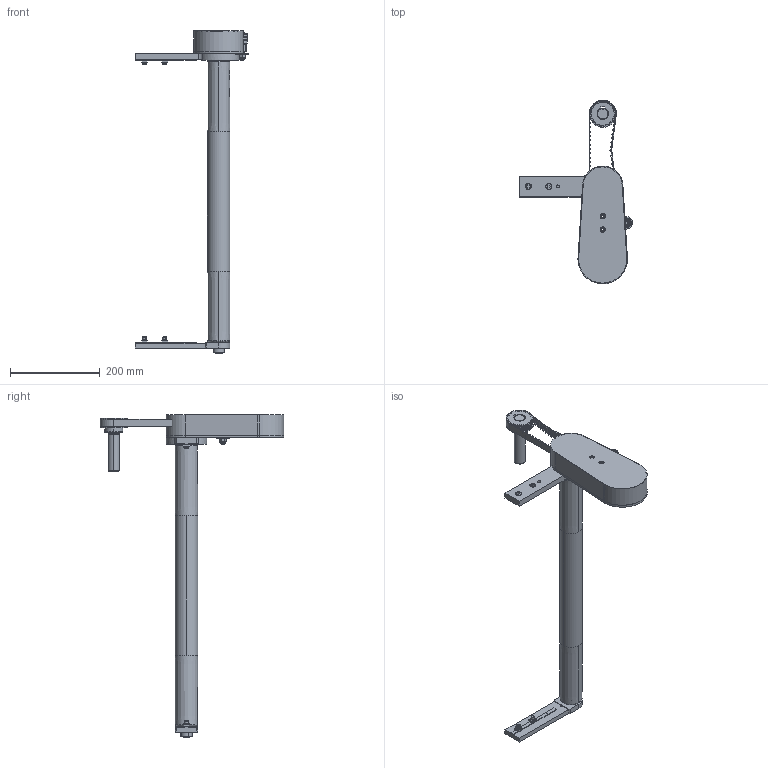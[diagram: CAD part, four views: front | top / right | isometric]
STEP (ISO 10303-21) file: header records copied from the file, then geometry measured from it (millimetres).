
FILE_DESCRIPTION (( 'STEP AP203' ), '1' );
FILE_NAME ('084.050.KTB.49.STEP', '2018-03-12T14:58:38', ( '' ), ( '' ), 'SwSTEP 2.0', 'SolidWorks 2016', '' );
FILE_SCHEMA (( 'CONFIG_CONTROL_DESIGN' ));
Length unit declared in the file: millimetre
Products named in the file (22): 084.807.001_084.807.001; 084.809.003; 084.802.017_084.802.017; 084.802.034_084.802.034; 084.810.006; 084.809.002; 084.821.002; ISO 7040-M8-S_ISO 7040-M8-S; 084.813.001; 084.807.002_084.807.002; 084.813.005; 084.302.000 DADI ALUSIC 13x13_084.302.004; 084.811.004; CUSCINETTI A SFERE_608-2RS; 084.810.001; 084.815.123_Default<A macchina>; 084.810.008; 084.821.003; 084.301.000 VITI ALUSIC_084.301.003; Washer ISO 7094 - 8_Washer ISO 7094 - 8; 084.050.KTB.49; circlip for shafts normal_din_Circlip DIN 471 - 8 x 0.8
Assembly tree (31 placements, depth 3):
  084.050.KTB.49
    084.815.123_Default<A macchina>
    084.811.004
    084.813.001
    084.810.001  x2
    084.802.034_084.802.034
    084.802.017_084.802.017
    084.807.001_084.807.001
    084.807.002_084.807.002
    084.813.005
    084.809.002
    084.809.003
    084.301.000 VITI ALUSIC_084.301.003  x4
    084.302.000 DADI ALUSIC 13x13_084.302.004  x4
    084.821.002  x2
    084.810.006
      084.810.008
      CUSCINETTI A SFERE_608-2RS  x3
      ISO 7040-M8-S_ISO 7040-M8-S
      Washer ISO 7094 - 8_Washer ISO 7094 - 8
      circlip for shafts normal_din_Circlip DIN 471 - 8 x 0.8
    084.821.003
Bounding box: 251.25 x 408.26 x 716 mm (x, y, z)
Volume: 1104311.9 mm3; surface area: 641364.5 mm2
Topology: 35 solids, 36 shells, 1456 faces, 3822 edges, 2486 vertices
Faces by surface type: plane 646, cylinder 578, cone 125, torus 98, sphere 9
Entity records: 36965 total; most frequent: CARTESIAN_POINT 6782, DIRECTION 6045, ORIENTED_EDGE 5626, EDGE_CURVE 2813, AXIS2_PLACEMENT_3D 2208, VERTEX_POINT 1829, LINE 1629, VECTOR 1629
